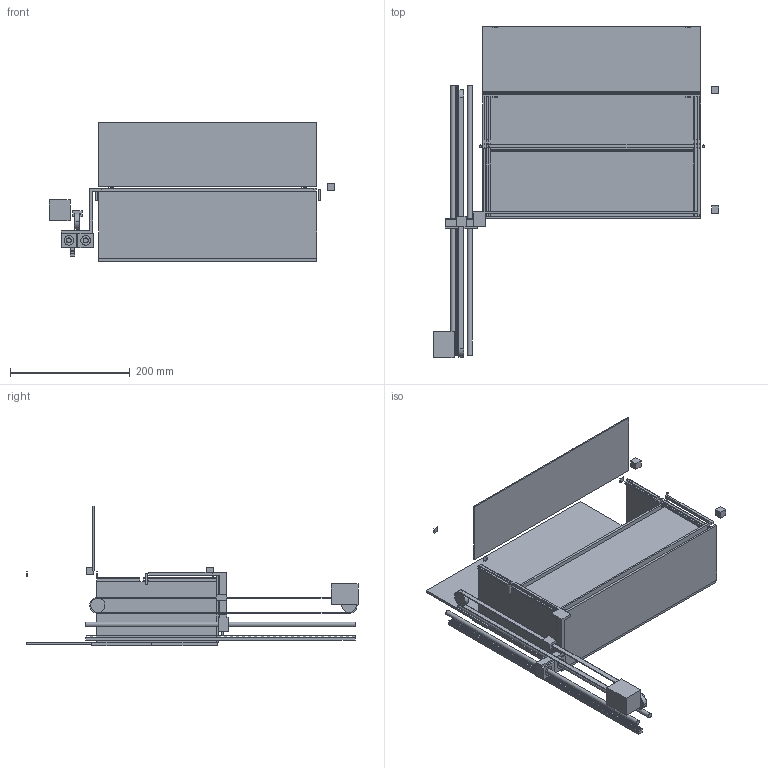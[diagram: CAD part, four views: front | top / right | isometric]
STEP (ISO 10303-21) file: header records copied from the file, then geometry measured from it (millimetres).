
FILE_DESCRIPTION(('FreeCAD Model'),'2;1');
FILE_NAME('Open CASCADE Shape Model','2026-10-19T11:28:23',('FreeCAD'),( 'FreeCAD'),'Open CASCADE STEP processor 7.8','FreeCAD','Unknown');
FILE_SCHEMA(('AUTOMOTIVE_DESIGN { 1 0 10303 214 1 1 1 1 }'));
Length unit declared in the file: millimetre
Products named in the file (1): Open CASCADE STEP translator 7.8 26
Bounding box: 477.5 x 555 x 234 mm (x, y, z)
Volume: 4914368.3 mm3; surface area: 940682.9 mm2
Topology: 33 solids, 33 shells, 1182 faces, 3345 edges, 2230 vertices
Faces by surface type: plane 1164, cylinder 18
Full cylindrical faces by diameter (mm): 4 x2, 8 x2, 8.5 x2, 16 x4, 24 x2
Entity records: 37471 total; most frequent: CARTESIAN_POINT 6758, ORIENTED_EDGE 6690, DIRECTION 5747, EDGE_CURVE 3345, LINE 3309, VECTOR 3309, VERTEX_POINT 2230, AXIS2_PLACEMENT_3D 1219
